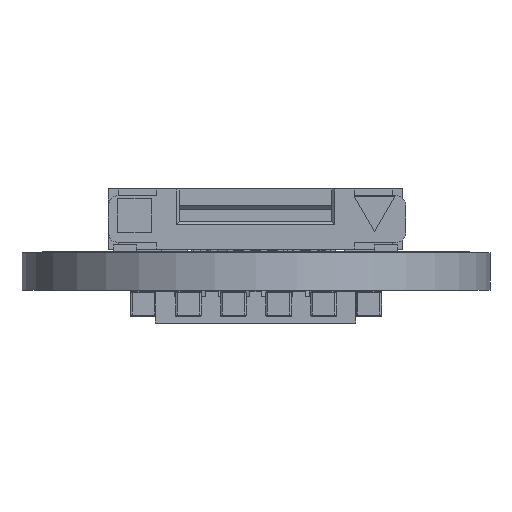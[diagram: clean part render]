
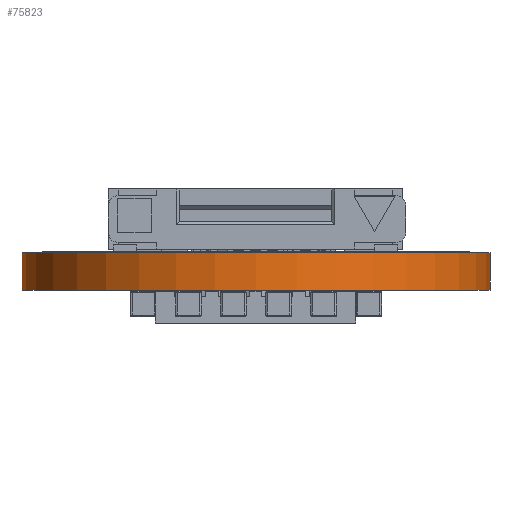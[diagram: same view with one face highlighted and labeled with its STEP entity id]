
A CAD part, front view. The second image highlights one B-rep face of the part: STEP entity #75823.
In plain terms, the highlighted cylindrical face has radius 7 mm (diameter 14 mm), a partial arc.
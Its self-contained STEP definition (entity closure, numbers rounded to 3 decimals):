
#5067 = CARTESIAN_POINT ( 'NONE',  ( 10.95, -10.95, -1.155 ) ) ;
#17084 = DIRECTION ( 'NONE',  ( 0., 0., -1. ) ) ;
#22397 = AXIS2_PLACEMENT_3D ( 'NONE', #5067, #17084, #41128 ) ;
#28555 = LINE ( 'NONE', #123953, #56617 ) ;
#34665 = DIRECTION ( 'NONE',  ( 1., 0., 0. ) ) ;
#41128 = DIRECTION ( 'NONE',  ( 1., 0., 0. ) ) ;
#43933 = CARTESIAN_POINT ( 'NONE',  ( 10.95, -10.95, -0.035 ) ) ;
#45098 = CYLINDRICAL_SURFACE ( 'NONE', #122604, 7. ) ;
#46455 = ORIENTED_EDGE ( 'NONE', *, *, #152070, .F. ) ;
#47775 = DIRECTION ( 'NONE',  ( 0., 0., -1. ) ) ;
#48350 = AXIS2_PLACEMENT_3D ( 'NONE', #43933, #79603, #91111 ) ;
#56617 = VECTOR ( 'NONE', #63835, 1000. ) ;
#63835 = DIRECTION ( 'NONE',  ( 0., 0., -1. ) ) ;
#63997 = CIRCLE ( 'NONE', #22397, 7. ) ;
#67091 = CARTESIAN_POINT ( 'NONE',  ( 3.95, -10.95, -1.19 ) ) ;
#73912 = CARTESIAN_POINT ( 'NONE',  ( 3.95, -10.95, -1.155 ) ) ;
#75823 = ADVANCED_FACE ( 'NONE', ( #80762 ), #45098, .T. ) ;
#79603 = DIRECTION ( 'NONE',  ( 0., 0., 1. ) ) ;
#80762 = FACE_OUTER_BOUND ( 'NONE', #125522, .T. ) ;
#81313 = EDGE_CURVE ( 'NONE', #131828, #130258, #126353, .T. ) ;
#89361 = CARTESIAN_POINT ( 'NONE',  ( 3.95, -10.95, -0.035 ) ) ;
#91111 = DIRECTION ( 'NONE',  ( -1., 0., 0. ) ) ;
#94920 = CARTESIAN_POINT ( 'NONE',  ( 10.95, -10.95, -1.19 ) ) ;
#96948 = CARTESIAN_POINT ( 'NONE',  ( 17.95, -10.95, -1.155 ) ) ;
#102206 = DIRECTION ( 'NONE',  ( 0., 0., -1. ) ) ;
#104429 = VERTEX_POINT ( 'NONE', #96948 ) ;
#107419 = EDGE_CURVE ( 'NONE', #104429, #110675, #63997, .T. ) ;
#110675 = VERTEX_POINT ( 'NONE', #73912 ) ;
#117187 = CARTESIAN_POINT ( 'NONE',  ( 17.95, -10.95, -0.035 ) ) ;
#119978 = ORIENTED_EDGE ( 'NONE', *, *, #107419, .F. ) ;
#121024 = VECTOR ( 'NONE', #102206, 1000. ) ;
#122604 = AXIS2_PLACEMENT_3D ( 'NONE', #94920, #47775, #34665 ) ;
#123953 = CARTESIAN_POINT ( 'NONE',  ( 17.95, -10.95, -1.19 ) ) ;
#125522 = EDGE_LOOP ( 'NONE', ( #140444, #125550, #119978, #46455 ) ) ;
#125550 = ORIENTED_EDGE ( 'NONE', *, *, #133093, .T. ) ;
#126353 = CIRCLE ( 'NONE', #48350, 7. ) ;
#130258 = VERTEX_POINT ( 'NONE', #117187 ) ;
#131828 = VERTEX_POINT ( 'NONE', #89361 ) ;
#133093 = EDGE_CURVE ( 'NONE', #131828, #110675, #152750, .T. ) ;
#140444 = ORIENTED_EDGE ( 'NONE', *, *, #81313, .F. ) ;
#152070 = EDGE_CURVE ( 'NONE', #130258, #104429, #28555, .T. ) ;
#152750 = LINE ( 'NONE', #67091, #121024 ) ;
